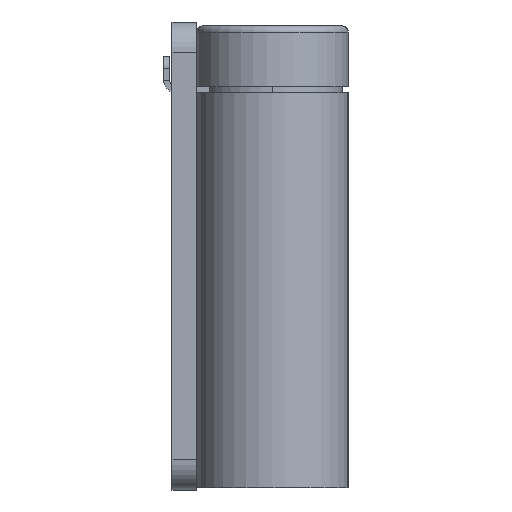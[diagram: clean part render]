
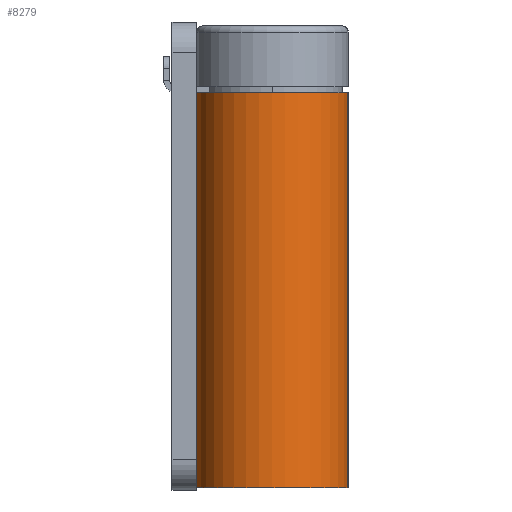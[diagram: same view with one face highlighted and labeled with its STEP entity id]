
A CAD part, left-side view. The second image highlights one B-rep face of the part: STEP entity #8279.
In plain terms, the highlighted cylindrical face has radius 12.5 mm (diameter 25 mm), a partial arc.
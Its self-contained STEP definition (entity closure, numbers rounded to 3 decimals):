
#142 = CARTESIAN_POINT ( 'NONE',  ( 0., 63., 0. ) ) ;
#437 = LINE ( 'NONE', #7864, #6966 ) ;
#582 = AXIS2_PLACEMENT_3D ( 'NONE', #3907, #6515, #7168 ) ;
#807 = DIRECTION ( 'NONE',  ( 0., 0., 1. ) ) ;
#965 = EDGE_CURVE ( 'NONE', #1216, #4494, #5680, .T. ) ;
#1008 = VERTEX_POINT ( 'NONE', #3458 ) ;
#1074 = EDGE_CURVE ( 'NONE', #1008, #5422, #7794, .T. ) ;
#1164 = ORIENTED_EDGE ( 'NONE', *, *, #8227, .T. ) ;
#1216 = VERTEX_POINT ( 'NONE', #2057 ) ;
#1755 = DIRECTION ( 'NONE',  ( 0., 1., 0. ) ) ;
#2057 = CARTESIAN_POINT ( 'NONE',  ( 0., -2., -12.5 ) ) ;
#2219 = CARTESIAN_POINT ( 'NONE',  ( 0., -2., 0. ) ) ;
#2318 = AXIS2_PLACEMENT_3D ( 'NONE', #2219, #8242, #4393 ) ;
#2890 = AXIS2_PLACEMENT_3D ( 'NONE', #142, #1755, #807 ) ;
#3119 = EDGE_CURVE ( 'NONE', #5422, #1216, #437, .T. ) ;
#3128 = DIRECTION ( 'NONE',  ( 0., -1., 0. ) ) ;
#3134 = FACE_OUTER_BOUND ( 'NONE', #3792, .T. ) ;
#3458 = CARTESIAN_POINT ( 'NONE',  ( 0., 63., 12.5 ) ) ;
#3792 = EDGE_LOOP ( 'NONE', ( #3853, #1164, #4049, #7286 ) ) ;
#3853 = ORIENTED_EDGE ( 'NONE', *, *, #1074, .F. ) ;
#3907 = CARTESIAN_POINT ( 'NONE',  ( 0., 63., 0. ) ) ;
#4049 = ORIENTED_EDGE ( 'NONE', *, *, #965, .F. ) ;
#4393 = DIRECTION ( 'NONE',  ( 0., 0., -1. ) ) ;
#4480 = DIRECTION ( 'NONE',  ( 0., -1., 0. ) ) ;
#4494 = VERTEX_POINT ( 'NONE', #8409 ) ;
#5094 = LINE ( 'NONE', #5756, #5917 ) ;
#5177 = CYLINDRICAL_SURFACE ( 'NONE', #582, 12.5 ) ;
#5422 = VERTEX_POINT ( 'NONE', #6358 ) ;
#5680 = CIRCLE ( 'NONE', #2318, 12.5 ) ;
#5756 = CARTESIAN_POINT ( 'NONE',  ( 0., 63., 12.5 ) ) ;
#5917 = VECTOR ( 'NONE', #4480, 1000. ) ;
#6358 = CARTESIAN_POINT ( 'NONE',  ( 0., 63., -12.5 ) ) ;
#6515 = DIRECTION ( 'NONE',  ( 0., -1., 0. ) ) ;
#6966 = VECTOR ( 'NONE', #3128, 1000. ) ;
#7168 = DIRECTION ( 'NONE',  ( 0., 0., -1. ) ) ;
#7286 = ORIENTED_EDGE ( 'NONE', *, *, #3119, .F. ) ;
#7794 = CIRCLE ( 'NONE', #2890, 12.5 ) ;
#7864 = CARTESIAN_POINT ( 'NONE',  ( 0., 63., -12.5 ) ) ;
#8227 = EDGE_CURVE ( 'NONE', #1008, #4494, #5094, .T. ) ;
#8242 = DIRECTION ( 'NONE',  ( 0., -1., 0. ) ) ;
#8279 = ADVANCED_FACE ( 'NONE', ( #3134 ), #5177, .T. ) ;
#8409 = CARTESIAN_POINT ( 'NONE',  ( 0., -2., 12.5 ) ) ;
